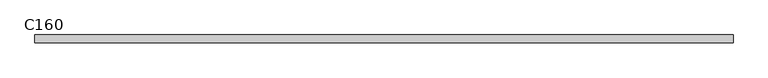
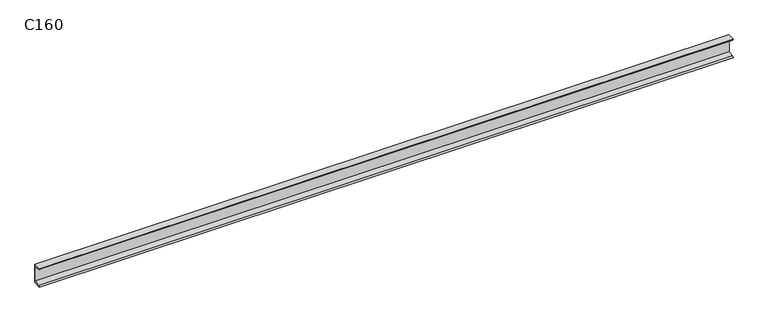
"""IFC4 building model written with IfcOpenShell, lengths in millimetres: beam geometry, RPLN C - Ceowniki normalne : C160."""

import ifcopenshell
import ifcopenshell.guid

model = None  # the IFC model being written
_history = None  # IfcOwnerHistory: only IFC2X3 demands one
_inside = {}  # id of a spatial element -> (the spatial element, [elements in it])
_under = {}  # id of a project, library or spatial element -> (it, [spatial elements below it])
_declared = {}  # id of a project -> (the project, [libraries it declares])
_typed = {}  # id of a type object -> (the type object, [elements of that type])
_made_of = {}  # id of a material, layer set ... -> (it, [elements and type objects made of it])


def new_model(schema):
    """Start an empty IFC model of exactly this schema.

    Asked for "IFC4X3", IfcOpenShell would pick the latest addendum, in which some entities
    have other attributes; the version numbers below select the first issue.
    IFC2X3 requires an IfcOwnerHistory on every rooted entity: one is made here for all.
    """
    global model, _history
    if schema == "IFC4X3":
        model = ifcopenshell.file(schema_version=(4, 3, 0, 0))
    else:
        model = ifcopenshell.file(schema=schema)
    _inside.clear()
    _under.clear()
    _declared.clear()
    _typed.clear()
    _made_of.clear()
    _history = None
    if model.schema == "IFC2X3":
        org = make("IfcOrganization", Name="unknown")
        user = make(
            "IfcPersonAndOrganization",
            ThePerson=make("IfcPerson", FamilyName="unknown"),
            TheOrganization=org,
        )
        app = make(
            "IfcApplication",
            ApplicationDeveloper=org,
            Version="unknown",
            ApplicationFullName="unknown",
            ApplicationIdentifier="unknown",
        )
        _history = make(
            "IfcOwnerHistory",
            OwningUser=user,
            OwningApplication=app,
            ChangeAction="ADDED",
            CreationDate=0,
        )
    return model


def make(cls, **values):
    """One entity of the class cls with the attributes given. An attribute that is None is left unset."""
    return model.create_entity(
        cls, **{name: value for name, value in values.items() if value is not None}
    )


def rooted(cls, **values):
    """An entity with a GlobalId (a new one), such as an element, a storey or a relation."""
    return make(cls, GlobalId=ifcopenshell.guid.new(), OwnerHistory=_history, **values)


def si_unit(unit_type, name, prefix=None):
    """IfcSIUnit, for example si_unit("LENGTHUNIT", "METRE", prefix="MILLI")."""
    return make("IfcSIUnit", UnitType=unit_type, Prefix=prefix, Name=name)


def assignment(units):
    """IfcUnitAssignment: the units of a project."""
    return None if units is None else make("IfcUnitAssignment", Units=units)


def point(xyz):
    """IfcCartesianPoint."""
    return None if xyz is None else make("IfcCartesianPoint", Coordinates=xyz)


def direction(xyz):
    """IfcDirection."""
    return None if xyz is None else make("IfcDirection", DirectionRatios=xyz)


def frame(location, z_axis=None, x_axis=None):
    """IfcAxis2Placement3D, a coordinate frame: its origin and axes. An axis left out is left unset."""
    return make(
        "IfcAxis2Placement3D",
        Location=point(location),
        Axis=direction(z_axis),
        RefDirection=direction(x_axis),
    )


def frame_2d(location, x_axis=None):
    """IfcAxis2Placement2D, a coordinate frame in the plane: its origin and x axis."""
    return make(
        "IfcAxis2Placement2D", Location=point(location), RefDirection=direction(x_axis)
    )


def origin():
    """The frame at (0, 0, 0) with its axes left unset."""
    return frame((0.0, 0.0, 0.0))


def place(relative_to, where):
    """IfcLocalPlacement: puts the frame where relative to a parent placement (None: the world)."""
    return make(
        "IfcLocalPlacement", PlacementRelTo=relative_to, RelativePlacement=where
    )


def context(
    kind, dimensions, precision=None, world=None, true_north=None, identifier=None
):
    """IfcGeometricRepresentationContext, for example the 3D "Model" context."""
    return make(
        "IfcGeometricRepresentationContext",
        ContextIdentifier=identifier,
        ContextType=kind,
        CoordinateSpaceDimension=dimensions,
        Precision=precision,
        WorldCoordinateSystem=world,
        TrueNorth=true_north,
    )


def project(units=None, contexts=None):
    """IfcProject with its units and contexts."""
    return rooted(
        "IfcProject",
        Name="project",
        RepresentationContexts=contexts,
        UnitsInContext=assignment(units),
    )


def spatial(cls, under=None, at=None, **own):
    """A site, building, storey or space (cls), placed at a placement, below another one or the project."""
    s = rooted(cls, ObjectPlacement=at, **own)
    if under is not None:
        _under.setdefault(under.id(), (under, []))[1].append(s)
    return s


def polyline(points):
    """IfcPolyline through the points."""
    return make("IfcPolyline", Points=[point(p) for p in points])


def circle_curve(where, radius):
    """IfcCircle in the frame where."""
    return make("IfcCircle", Position=where, Radius=radius)


def trimmed(basis, trim1, trim2, sense, master):
    """IfcTrimmedCurve: the piece of a basis curve between two trims."""
    return make(
        "IfcTrimmedCurve",
        BasisCurve=basis,
        Trim1=trim1,
        Trim2=trim2,
        SenseAgreement=sense,
        MasterRepresentation=master,
    )


def segment(curve, same_sense, transition):
    """IfcCompositeCurveSegment."""
    return make(
        "IfcCompositeCurveSegment",
        Transition=transition,
        SameSense=same_sense,
        ParentCurve=curve,
    )


def composite_curve(segments, self_intersect=None):
    """IfcCompositeCurve: segments joined end to end."""
    return make("IfcCompositeCurve", Segments=segments, SelfIntersect=self_intersect)


def outline(outer, holes=None, kind="AREA"):
    """IfcArbitraryClosedProfileDef: a profile drawn as a closed curve; with holes, ...WithVoids."""
    if holes is None:
        return make("IfcArbitraryClosedProfileDef", ProfileType=kind, OuterCurve=outer)
    return make(
        "IfcArbitraryProfileDefWithVoids",
        ProfileType=kind,
        OuterCurve=outer,
        InnerCurves=holes,
    )


def extrude(swept, where, along, depth):
    """IfcExtrudedAreaSolid: the profile swept, set in the frame where, extruded along a direction by depth."""
    return make(
        "IfcExtrudedAreaSolid",
        SweptArea=swept,
        Position=where,
        ExtrudedDirection=direction(along),
        Depth=depth,
    )


def shape(context_of_items, identifier, shape_type, items):
    """IfcShapeRepresentation: the items that make up one representation, for example the "Body"."""
    return make(
        "IfcShapeRepresentation",
        ContextOfItems=context_of_items,
        RepresentationIdentifier=identifier,
        RepresentationType=shape_type,
        Items=items,
    )


def source(mapping_origin, context_of_items, identifier, shape_type, items):
    """IfcRepresentationMap: a shape defined once, which mapped items show again and again."""
    return make(
        "IfcRepresentationMap",
        MappingOrigin=mapping_origin,
        MappedRepresentation=shape(context_of_items, identifier, shape_type, items),
    )


def transform(
    local_origin,
    x_axis=None,
    y_axis=None,
    z_axis=None,
    scale=None,
    scale2=None,
    scale3=None,
    uniform=True,
):
    """IfcCartesianTransformationOperator3D, or its non-uniform kind. x_axis, y_axis, z_axis: its Axis1, 2, 3."""
    if uniform:
        return make(
            "IfcCartesianTransformationOperator3D",
            Axis1=direction(x_axis),
            Axis2=direction(y_axis),
            LocalOrigin=point(local_origin),
            Scale=scale,
            Axis3=direction(z_axis),
        )
    return make(
        "IfcCartesianTransformationOperator3DnonUniform",
        Axis1=direction(x_axis),
        Axis2=direction(y_axis),
        LocalOrigin=point(local_origin),
        Scale=scale,
        Axis3=direction(z_axis),
        Scale2=scale2,
        Scale3=scale3,
    )


def mapped(mapping_source, mapping_target):
    """IfcMappedItem: shows the shape of a source again, moved by a transform."""
    return make(
        "IfcMappedItem", MappingSource=mapping_source, MappingTarget=mapping_target
    )


def made_of(thing, what):
    """Note that an element or type object is made of a material, layer set ...; save() writes the relation."""
    if what is not None:
        _made_of.setdefault(what.id(), (what, []))[1].append(thing)
    return thing


def element(
    cls,
    number,
    at=None,
    inside=None,
    cuts=None,
    type_object=None,
    material=None,
    context=None,
    identifier="Body",
    shape_type=None,
    held_by="IfcProductDefinitionShape",
    body=None,
    shapes=None,
    **own,
):
    """One element of the class cls, such as IfcWall. Its Tag is "e" and its number.

    at: its placement. inside: the storey or other place that contains it. cuts: it is an
    opening in that element (IfcRelVoidsElement). A single representation is given by context,
    identifier, shape_type and body (its items); several are given by shapes. held_by: the class
    of the entity that holds the representations. save() writes the other relations.
    """
    e = rooted(cls, Tag="e%d" % number, ObjectPlacement=at, **own)
    if body is not None:
        shapes = [shape(context, identifier, shape_type, body)]
    if shapes is not None:
        e.Representation = make(held_by, Representations=shapes)
    if inside is not None:
        _inside.setdefault(inside.id(), (inside, []))[1].append(e)
    if cuts is not None:
        rooted(
            "IfcRelVoidsElement", RelatingBuildingElement=cuts, RelatedOpeningElement=e
        )
    if type_object is not None:
        _typed.setdefault(type_object.id(), (type_object, []))[1].append(e)
    return made_of(e, material)


def aggregate(whole, parts):
    """IfcRelAggregates: a whole, such as a stair, and the parts it consists of."""
    return rooted("IfcRelAggregates", RelatingObject=whole, RelatedObjects=parts)


def save(model, path):
    """Write the relations noted so far, then the file.

    IfcRelAggregates (storeys below a building ...), IfcRelContainedInSpatialStructure (elements
    in a storey), IfcRelDefinesByType, IfcRelAssociatesMaterial and IfcRelDeclares: one each for
    every whole, place, type object, material and project.
    """
    for whole, parts in _under.values():
        aggregate(whole, parts)
    for where, things in _inside.values():
        rooted(
            "IfcRelContainedInSpatialStructure",
            RelatedElements=things,
            RelatingStructure=where,
        )
    for kind, things in _typed.values():
        rooted("IfcRelDefinesByType", RelatedObjects=things, RelatingType=kind)
    for what, things in _made_of.values():
        rooted("IfcRelAssociatesMaterial", RelatedObjects=things, RelatingMaterial=what)
    for by, libraries in _declared.values():
        rooted("IfcRelDeclares", RelatingContext=by, RelatedDefinitions=libraries)
    model.write(path)


def c160_3778965b(model_context):
    return source(origin(), model_context, "Body", "SweptSolid", [
        extrude(outline(composite_curve([segment(polyline([(18.4, 80.0), (18.4, -80.0), (-46.6, -80.0)]), True, "CONTINUOUS"), segment(trimmed(circle_curve(frame_2d((-36.1, -80.0)), 10.5), [point((-46.6, -80.0))], [point((-36.1, -69.5))], False, "CARTESIAN"), True, "CONTINUOUS"), segment(polyline([(-36.1, -69.5), (10.9, -62.0559313), (10.9, 62.0559313), (-36.1, 69.5)]), True, "CONTINUOUS"), segment(trimmed(circle_curve(frame_2d((-36.1, 80.0)), 10.5), [point((-36.1, 69.5))], [point((-46.6, 80.0))], False, "CARTESIAN"), True, "CONTINUOUS"), segment(polyline([(-46.6, 80.0), (18.4, 80.0)]), True, "CONTINUOUS")], self_intersect=False)), frame((-2916.6140727, 0.0, 0.0), z_axis=(1.0, 0.0, 0.0), x_axis=(0.0, 1.0, 0.0)), (0.0, 0.0, 1.0), 5708.0593181),
    ])


if __name__ == "__main__":
    model = new_model("IFC4")
    model_context = context("Model", 3, world=origin())
    ifc_project = project(units=[si_unit("LENGTHUNIT", "METRE", prefix="MILLI")], contexts=[model_context])
    site = spatial("IfcSite", under=ifc_project)
    building = spatial("IfcBuilding", under=site)
    placement = place(None, origin())
    c160_shape = c160_3778965b(model_context)
    element("IfcBeam", 1, ObjectType="RPLN C - Ceowniki normalne : C160", at=placement, inside=building, context=model_context, shape_type="MappedRepresentation", body=[
        mapped(c160_shape, transform((0.0, 0.0, 0.0), x_axis=(1.0, 0.0, 0.0), y_axis=(0.0, 1.0, 0.0), z_axis=(0.0, 0.0, 1.0))),
    ])
    save(model, "model.ifc")
